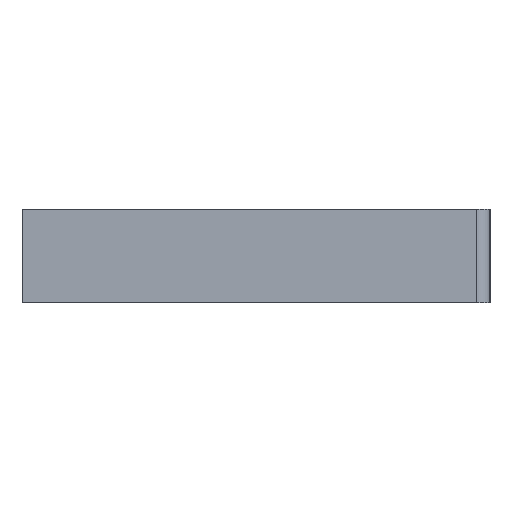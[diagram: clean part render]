
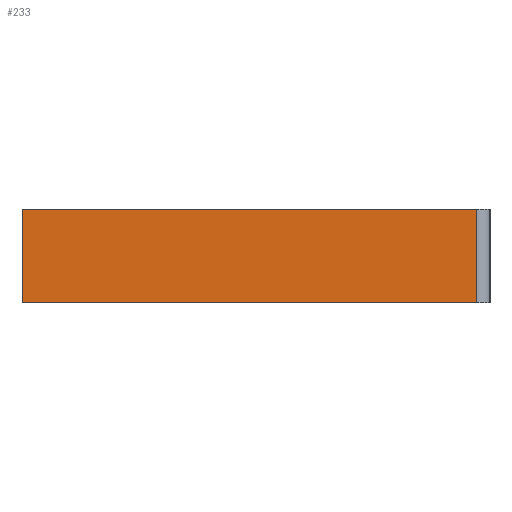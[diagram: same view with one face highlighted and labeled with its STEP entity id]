
A CAD part, left-side view. The second image highlights one B-rep face of the part: STEP entity #233.
In plain terms, the highlighted planar face has unit normal (-1, 0, 0).
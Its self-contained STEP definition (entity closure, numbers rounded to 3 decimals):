
#145 = VERTEX_POINT( '', #363 );
#153 = EDGE_CURVE( '', #193, #145, #371, .T. );
#167 = VERTEX_POINT( '', #386 );
#193 = VERTEX_POINT( '', #415 );
#203 = EDGE_CURVE( '', #193, #287, #425, .T. );
#233 = ADVANCED_FACE( '', ( #460 ), #461, .T. );
#281 = EDGE_CURVE( '', #145, #167, #513, .T. );
#287 = VERTEX_POINT( '', #519 );
#315 = EDGE_CURVE( '', #287, #167, #553, .T. );
#363 = CARTESIAN_POINT( '', ( -31., 0., -3.5 ) );
#371 = LINE( '', #612, #613 );
#386 = CARTESIAN_POINT( '', ( -31., -34., -3.5 ) );
#415 = CARTESIAN_POINT( '', ( -31., 0., 3.5 ) );
#425 = LINE( '', #686, #687 );
#460 = FACE_OUTER_BOUND( '', #732, .T. );
#461 = PLANE( '', #733 );
#513 = LINE( '', #807, #808 );
#519 = CARTESIAN_POINT( '', ( -31., -34., 3.5 ) );
#553 = LINE( '', #860, #861 );
#612 = CARTESIAN_POINT( '', ( -31., 0., 3.5 ) );
#613 = VECTOR( '', #890, 1. );
#686 = CARTESIAN_POINT( '', ( -31., 0., 3.5 ) );
#687 = VECTOR( '', #936, 1. );
#732 = EDGE_LOOP( '', ( #988, #989, #990, #991 ) );
#733 = AXIS2_PLACEMENT_3D( '', #992, #993, #994 );
#807 = CARTESIAN_POINT( '', ( -31., 0., -3.5 ) );
#808 = VECTOR( '', #1050, 1. );
#860 = CARTESIAN_POINT( '', ( -31., -34., 3.5 ) );
#861 = VECTOR( '', #1115, 1. );
#890 = DIRECTION( '', ( 0., 0., -1. ) );
#936 = DIRECTION( '', ( 0., -1., 0. ) );
#988 = ORIENTED_EDGE( '', *, *, #281, .T. );
#989 = ORIENTED_EDGE( '', *, *, #315, .F. );
#990 = ORIENTED_EDGE( '', *, *, #203, .F. );
#991 = ORIENTED_EDGE( '', *, *, #153, .T. );
#992 = CARTESIAN_POINT( '', ( -31., 0., 3.5 ) );
#993 = DIRECTION( '', ( -1., 0., 0. ) );
#994 = DIRECTION( '', ( 0., 1., 0. ) );
#1050 = DIRECTION( '', ( 0., -1., 0. ) );
#1115 = DIRECTION( '', ( 0., 0., -1. ) );
